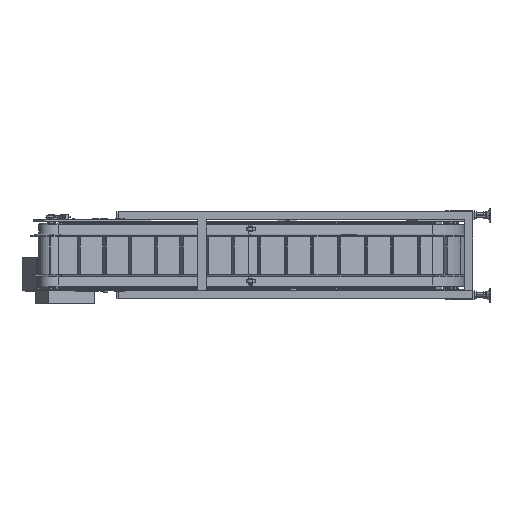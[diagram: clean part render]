
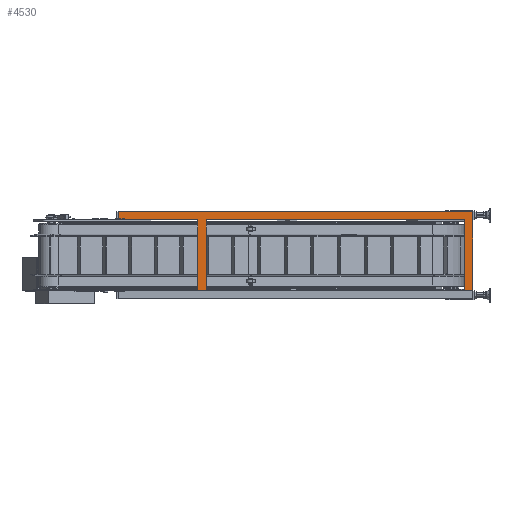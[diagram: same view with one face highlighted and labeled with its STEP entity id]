
A CAD part, left-side view. The second image highlights one B-rep face of the part: STEP entity #4530.
In plain terms, the highlighted planar face has unit normal (-1, 0, 0).
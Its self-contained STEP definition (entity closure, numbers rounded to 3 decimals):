
#4530=ADVANCED_FACE('',(#28732),#28731,.T.);
#28731=PLANE('',#46241);
#28732=FACE_OUTER_BOUND('',#46242,.T.);
#46238=CARTESIAN_POINT('',(251.913,-2123.686,-182.));
#46239=DIRECTION('',(-1.,0.,0.));
#46240=DIRECTION('',(0.,0.,1.));
#46241=AXIS2_PLACEMENT_3D('',#46238,#46239,#46240);
#46242=EDGE_LOOP('',(#59557,#59558,#59559,#59560,#59561,#59562,#59563,#59564,#59565,#59566,#59567));
#59557=ORIENTED_EDGE('',*,*,#66957,.F.);
#59558=ORIENTED_EDGE('',*,*,#66958,.F.);
#59559=ORIENTED_EDGE('',*,*,#66959,.F.);
#59560=ORIENTED_EDGE('',*,*,#66960,.T.);
#59561=ORIENTED_EDGE('',*,*,#66961,.T.);
#59562=ORIENTED_EDGE('',*,*,#66962,.F.);
#59563=ORIENTED_EDGE('',*,*,#66963,.F.);
#59564=ORIENTED_EDGE('',*,*,#66964,.T.);
#59565=ORIENTED_EDGE('',*,*,#66965,.T.);
#59566=ORIENTED_EDGE('',*,*,#66966,.T.);
#59567=ORIENTED_EDGE('',*,*,#66951,.T.);
#66951=EDGE_CURVE('',#105211,#105204,#105212,.T.);
#66957=EDGE_CURVE('',#105252,#105204,#105253,.T.);
#66958=EDGE_CURVE('',#105259,#105252,#105260,.T.);
#66959=EDGE_CURVE('',#105266,#105259,#105267,.T.);
#66960=EDGE_CURVE('',#105266,#105273,#105274,.T.);
#66961=EDGE_CURVE('',#105273,#105280,#105281,.T.);
#66962=EDGE_CURVE('',#105287,#105280,#105288,.T.);
#66963=EDGE_CURVE('',#105294,#105287,#105295,.T.);
#66964=EDGE_CURVE('',#105294,#105301,#105302,.T.);
#66965=EDGE_CURVE('',#105301,#105308,#105309,.T.);
#66966=EDGE_CURVE('',#105308,#105211,#105315,.T.);
#105204=VERTEX_POINT('',#133405);
#105211=VERTEX_POINT('',#133409);
#105212=LINE('',#133410,#133411);
#105252=VERTEX_POINT('',#133432);
#105253=LINE('',#133433,#133434);
#105259=VERTEX_POINT('',#133436);
#105260=LINE('',#133437,#133438);
#105266=VERTEX_POINT('',#133440);
#105267=LINE('',#133441,#133442);
#105273=VERTEX_POINT('',#133444);
#105274=LINE('',#133445,#133446);
#105280=VERTEX_POINT('',#133448);
#105281=LINE('',#133449,#133450);
#105287=VERTEX_POINT('',#133452);
#105288=LINE('',#133453,#133454);
#105294=VERTEX_POINT('',#133456);
#105295=LINE('',#133457,#133458);
#105301=VERTEX_POINT('',#133460);
#105302=LINE('',#133461,#133462);
#105308=VERTEX_POINT('',#133464);
#105309=LINE('',#133465,#133466);
#105315=LINE('',#133468,#133469);
#133405=CARTESIAN_POINT('',(251.913,-384.636,212.));
#133409=CARTESIAN_POINT('',(251.913,-2113.686,212.));
#133410=CARTESIAN_POINT('',(251.913,-2113.686,212.));
#133411=VECTOR('',#133412,1729.05);
#133412=DIRECTION('',(0.,1.,0.));
#133432=CARTESIAN_POINT('',(251.913,-384.636,172.));
#133433=CARTESIAN_POINT('',(251.913,-384.636,172.));
#133434=VECTOR('',#133435,40.);
#133435=DIRECTION('',(0.,0.,1.));
#133436=CARTESIAN_POINT('',(251.913,-513.995,172.));
#133437=CARTESIAN_POINT('',(251.913,-513.995,172.));
#133438=VECTOR('',#133439,129.359);
#133439=DIRECTION('',(0.,1.,0.));
#133440=CARTESIAN_POINT('',(251.913,-773.686,172.));
#133441=CARTESIAN_POINT('',(251.913,-773.686,172.));
#133442=VECTOR('',#133443,259.691);
#133443=DIRECTION('',(0.,1.,0.));
#133444=CARTESIAN_POINT('',(251.913,-773.686,-172.));
#133445=CARTESIAN_POINT('',(251.913,-773.686,172.));
#133446=VECTOR('',#133447,344.);
#133447=DIRECTION('',(0.,0.,-1.));
#133448=CARTESIAN_POINT('',(251.913,-813.686,-172.));
#133449=CARTESIAN_POINT('',(251.913,-773.686,-172.));
#133450=VECTOR('',#133451,40.);
#133451=DIRECTION('',(0.,-1.,0.));
#133452=CARTESIAN_POINT('',(251.913,-813.686,172.));
#133453=CARTESIAN_POINT('',(251.913,-813.686,172.));
#133454=VECTOR('',#133455,344.);
#133455=DIRECTION('',(0.,0.,-1.));
#133456=CARTESIAN_POINT('',(251.913,-2073.686,172.));
#133457=CARTESIAN_POINT('',(251.913,-2073.686,172.));
#133458=VECTOR('',#133459,1260.);
#133459=DIRECTION('',(0.,1.,0.));
#133460=CARTESIAN_POINT('',(251.913,-2073.686,-172.));
#133461=CARTESIAN_POINT('',(251.913,-2073.686,172.));
#133462=VECTOR('',#133463,344.);
#133463=DIRECTION('',(0.,0.,-1.));
#133464=CARTESIAN_POINT('',(251.913,-2113.686,-172.));
#133465=CARTESIAN_POINT('',(251.913,-2073.686,-172.));
#133466=VECTOR('',#133467,40.);
#133467=DIRECTION('',(0.,-1.,0.));
#133468=CARTESIAN_POINT('',(251.913,-2113.686,-172.));
#133469=VECTOR('',#133470,384.);
#133470=DIRECTION('',(0.,0.,1.));
